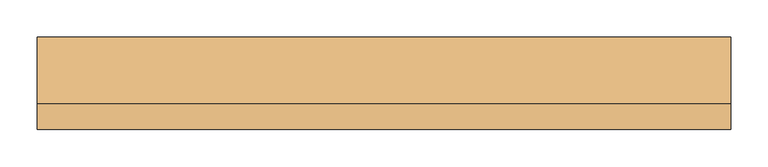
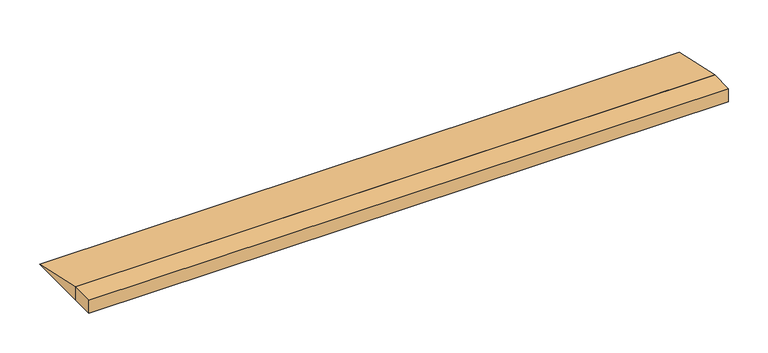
"""IFC4 building model written with IfcOpenShell, lengths in millimetres: door geometry, FDE_SO_Soleiras1 : SO14_SoleiraRampadaDesnívelAté2cm_L=14cm_Cimentado 2."""

from ifc_helpers import new_model, si_unit, frame, origin, place, context, project, spatial, polyline, outline, extrude, source, transform, mapped, element, save


def door_9ce70d66(model_context):
    return source(origin(), model_context, "Body", "SweptSolid", [
        extrude(outline(polyline([(-35.0, 0.0), (55.0, -20.0), (-35.0, -20.0), (-35.0, 0.0)])), frame((-467.0, 0.0, 0.0), z_axis=(1.0, 0.0, 0.0), x_axis=(0.0, 1.0, 0.0)), (0.0, 0.0, 1.0), 934.0),
        extrude(outline(polyline([(467.0, -70.0), (-467.0, -70.0), (-467.0, -35.0), (467.0, -35.0), (467.0, -70.0)])), frame((0.0, 0.0, -20.0), z_axis=(0.0, 0.0, 1.0), x_axis=(1.0, 0.0, 0.0)), (0.0, 0.0, 1.0), 20.0),
    ])


if __name__ == "__main__":
    model = new_model("IFC4")
    model_context = context("Model", 3, world=origin())
    ifc_project = project(units=[si_unit("LENGTHUNIT", "METRE", prefix="MILLI")], contexts=[model_context])
    site = spatial("IfcSite", under=ifc_project)
    building = spatial("IfcBuilding", under=site)
    placement = place(None, origin())
    door_shape = door_9ce70d66(model_context)
    element("IfcDoor", 1, ObjectType="FDE_SO_Soleiras1 : SO14_SoleiraRampadaDesnívelAté2cm_L=14cm_Cimentado 2", at=placement, inside=building, context=model_context, shape_type="MappedRepresentation", body=[
        mapped(door_shape, transform((0.0, 0.0, 0.0), x_axis=(1.0, 0.0, 0.0), y_axis=(0.0, 1.0, 0.0), z_axis=(0.0, 0.0, 1.0))),
    ])
    save(model, "model.ifc")
